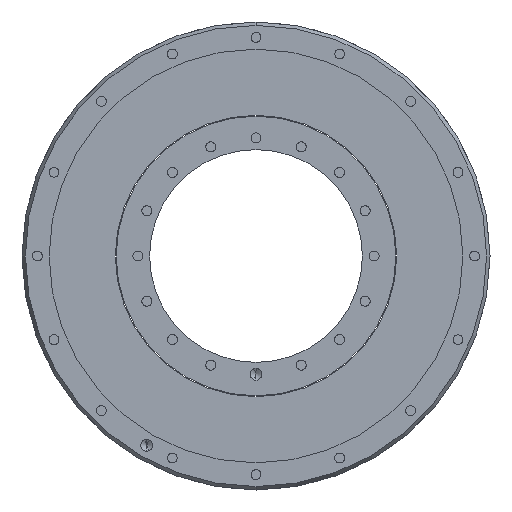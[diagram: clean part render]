
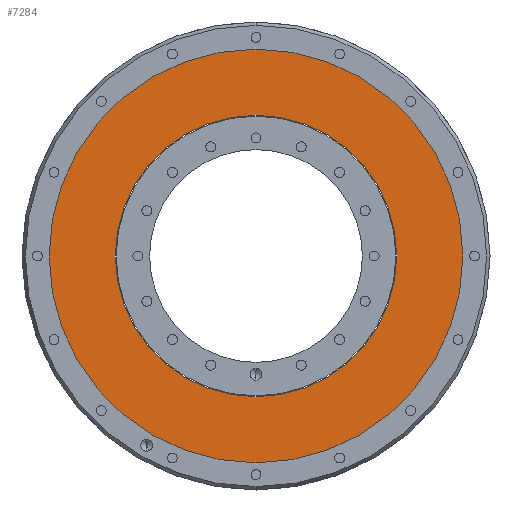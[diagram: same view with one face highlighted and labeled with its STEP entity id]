
A CAD part, front view. The second image highlights one B-rep face of the part: STEP entity #7284.
In plain terms, the highlighted planar face has unit normal (0, -1, 0).
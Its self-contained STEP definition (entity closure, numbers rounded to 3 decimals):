
#68 = CIRCLE ( 'NONE', #5611, 87.5 ) ;
#200 = EDGE_CURVE ( 'NONE', #694, #8325, #7446, .T. ) ;
#206 = AXIS2_PLACEMENT_3D ( 'NONE', #3334, #5628, #9023 ) ;
#657 = FACE_BOUND ( 'NONE', #7454, .T. ) ;
#694 = VERTEX_POINT ( 'NONE', #1559 ) ;
#761 = EDGE_CURVE ( 'NONE', #3618, #8182, #6646, .T. ) ;
#832 = CARTESIAN_POINT ( 'NONE',  ( 0., 1., 0. ) ) ;
#847 = DIRECTION ( 'NONE',  ( 0., 0., -1. ) ) ;
#1456 = DIRECTION ( 'NONE',  ( 0., -1., 0. ) ) ;
#1559 = CARTESIAN_POINT ( 'NONE',  ( 0., 1., -87.5 ) ) ;
#1947 = ORIENTED_EDGE ( 'NONE', *, *, #200, .T. ) ;
#2040 = DIRECTION ( 'NONE',  ( 0., 0., -1. ) ) ;
#2134 = DIRECTION ( 'NONE',  ( 0., 0., -1. ) ) ;
#2252 = DIRECTION ( 'NONE',  ( 0., -1., 0. ) ) ;
#2553 = EDGE_LOOP ( 'NONE', ( #1947, #6033 ) ) ;
#2624 = PLANE ( 'NONE',  #206 ) ;
#2644 = AXIS2_PLACEMENT_3D ( 'NONE', #832, #2252, #6482 ) ;
#2847 = ORIENTED_EDGE ( 'NONE', *, *, #5226, .F. ) ;
#3334 = CARTESIAN_POINT ( 'NONE',  ( 59.5, 1., 0. ) ) ;
#3354 = CARTESIAN_POINT ( 'NONE',  ( 0., 1., 0. ) ) ;
#3618 = VERTEX_POINT ( 'NONE', #8571 ) ;
#3684 = CARTESIAN_POINT ( 'NONE',  ( 0., 1., 0. ) ) ;
#4430 = CARTESIAN_POINT ( 'NONE',  ( 0., 1., -59.5 ) ) ;
#4643 = ORIENTED_EDGE ( 'NONE', *, *, #761, .F. ) ;
#4736 = DIRECTION ( 'NONE',  ( 0., -1., 0. ) ) ;
#5226 = EDGE_CURVE ( 'NONE', #8182, #3618, #7379, .T. ) ;
#5611 = AXIS2_PLACEMENT_3D ( 'NONE', #3354, #4736, #2040 ) ;
#5628 = DIRECTION ( 'NONE',  ( 0., -1., 0. ) ) ;
#6018 = CARTESIAN_POINT ( 'NONE',  ( 0., 1., 87.5 ) ) ;
#6033 = ORIENTED_EDGE ( 'NONE', *, *, #8995, .T. ) ;
#6482 = DIRECTION ( 'NONE',  ( 0., 0., -1. ) ) ;
#6646 = CIRCLE ( 'NONE', #2644, 59.5 ) ;
#6941 = CARTESIAN_POINT ( 'NONE',  ( 0., 1., 0. ) ) ;
#7284 = ADVANCED_FACE ( 'NONE', ( #8524, #657 ), #2624, .T. ) ;
#7379 = CIRCLE ( 'NONE', #8444, 59.5 ) ;
#7403 = AXIS2_PLACEMENT_3D ( 'NONE', #3684, #8469, #847 ) ;
#7446 = CIRCLE ( 'NONE', #7403, 87.5 ) ;
#7454 = EDGE_LOOP ( 'NONE', ( #2847, #4643 ) ) ;
#8182 = VERTEX_POINT ( 'NONE', #4430 ) ;
#8325 = VERTEX_POINT ( 'NONE', #6018 ) ;
#8444 = AXIS2_PLACEMENT_3D ( 'NONE', #6941, #1456, #2134 ) ;
#8469 = DIRECTION ( 'NONE',  ( 0., -1., 0. ) ) ;
#8524 = FACE_OUTER_BOUND ( 'NONE', #2553, .T. ) ;
#8571 = CARTESIAN_POINT ( 'NONE',  ( 0., 1., 59.5 ) ) ;
#8995 = EDGE_CURVE ( 'NONE', #8325, #694, #68, .T. ) ;
#9023 = DIRECTION ( 'NONE',  ( 0., 0., -1. ) ) ;
